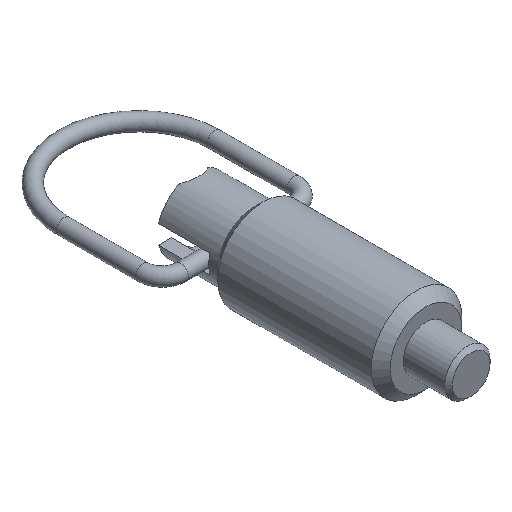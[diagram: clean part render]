
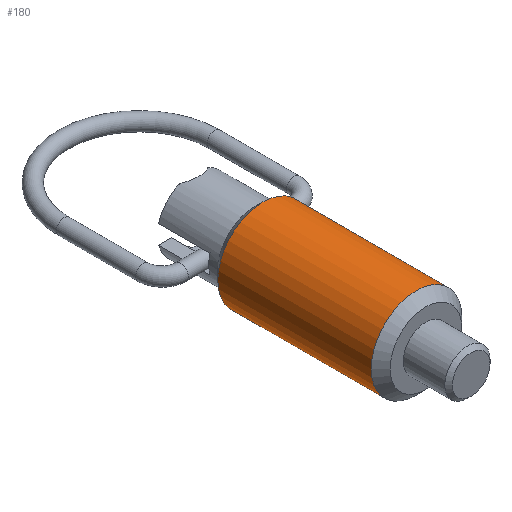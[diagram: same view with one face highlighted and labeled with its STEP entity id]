
A CAD part, isometric view. The second image highlights one B-rep face of the part: STEP entity #180.
In plain terms, the highlighted cylindrical face has radius 6 mm (diameter 12 mm), a full revolution.
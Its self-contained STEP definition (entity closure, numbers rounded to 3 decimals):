
#180 = ADVANCED_FACE( '', ( #244, #245 ), #246, .T. );
#244 = FACE_OUTER_BOUND( '', #361, .T. );
#245 = FACE_OUTER_BOUND( '', #362, .T. );
#246 = CYLINDRICAL_SURFACE( '', #363, 6. );
#361 = EDGE_LOOP( '', ( #533 ) );
#362 = EDGE_LOOP( '', ( #534 ) );
#363 = AXIS2_PLACEMENT_3D( '', #535, #536, #537 );
#533 = ORIENTED_EDGE( '', *, *, #763, .T. );
#534 = ORIENTED_EDGE( '', *, *, #764, .F. );
#535 = CARTESIAN_POINT( '', ( 0., 0., 0. ) );
#536 = DIRECTION( '', ( 0., 1., 0. ) );
#537 = DIRECTION( '', ( 0., 0., -1. ) );
#763 = EDGE_CURVE( '', #867, #867, #868, .T. );
#764 = EDGE_CURVE( '', #869, #869, #870, .T. );
#867 = VERTEX_POINT( '', #1075 );
#868 = CIRCLE( '', #1076, 6. );
#869 = VERTEX_POINT( '', #1077 );
#870 = CIRCLE( '', #1078, 6. );
#1075 = CARTESIAN_POINT( '', ( 0., 21.6, -6. ) );
#1076 = AXIS2_PLACEMENT_3D( '', #1286, #1287, #1288 );
#1077 = CARTESIAN_POINT( '', ( 0., 1.25, -6. ) );
#1078 = AXIS2_PLACEMENT_3D( '', #1289, #1290, #1291 );
#1286 = CARTESIAN_POINT( '', ( 0., 21.6, 0. ) );
#1287 = DIRECTION( '', ( 0., -1., 0. ) );
#1288 = DIRECTION( '', ( 0., 0., -1. ) );
#1289 = CARTESIAN_POINT( '', ( 0., 1.25, 0. ) );
#1290 = DIRECTION( '', ( 0., -1., 0. ) );
#1291 = DIRECTION( '', ( 0., 0., -1. ) );
